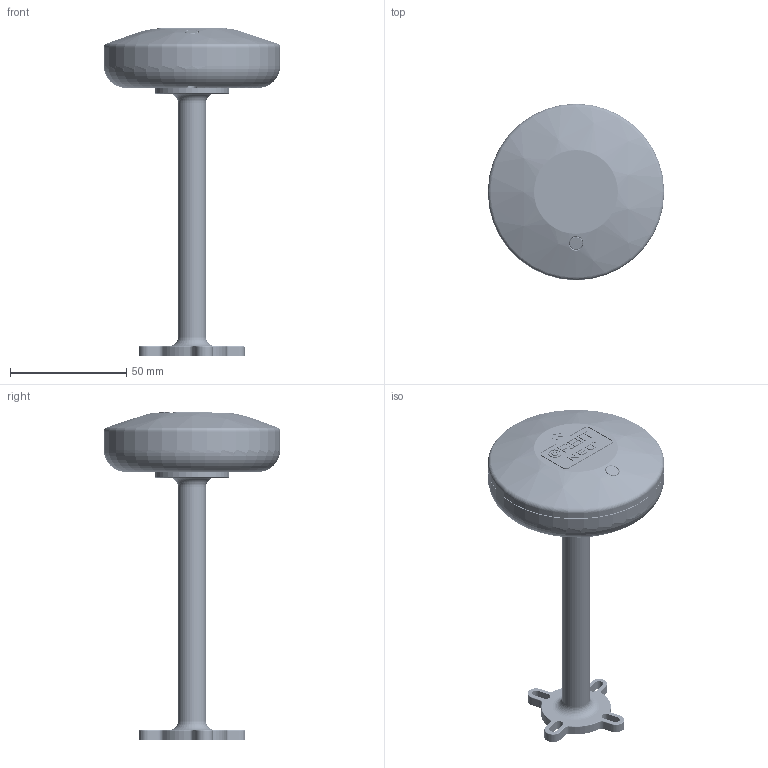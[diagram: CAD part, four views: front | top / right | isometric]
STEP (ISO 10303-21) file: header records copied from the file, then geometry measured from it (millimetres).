
FILE_DESCRIPTION(/* description */ ('STEP AP242 Edition 2','CAx-IF Rec.Pracs.---Representation and Presentation of Product Manufacturing Information (PMI)---4.0---2014-10-13','CAx-IF Rec.Pracs.---3D Tessellated Geometry---0.4---2014-09-14','2;1','CAx-IF Rec.Pracs.---User Defined Attributes---1.5---2016-08-15'),/* implementation_level */ '2;1');
FILE_NAME(/* name */ '69ce2e6da1ed34e5d0ca719a',/* time_stamp */ '2026-04-02T08:53:06Z',/* author */ (''),/* organization */ (''),/* preprocessor_version */ 'ST-DEVELOPER v20',/* originating_system */ 'ONSHAPE BY PTC INC, 1.212',/* authorisation */ ' ');
FILE_SCHEMA (('AP242_MANAGED_MODEL_BASED_3D_ENGINEERING_MIM_LF { 1 0 10303 442 3 1 4 }'));
Length unit declared in the file: metre
Products named in the file (303): Orbit-NEO-PLUS-Enclosure-IP Rated; Orbit-NEO-PLUS_2; M1.2x 0.25 x 4 Slotted Flat Head Screw_91430A154; M2 Thread Insert; Wire Grommet O Ring; Post-Orbit-NEO-PLUS-Enclosure; Bottom-Orbit-NEO-PLUS-Enclosure-IP Rated; Wire Grommet-Orbit-NEO-PLUS-Enclosure-R3; LED Cover-Orbit-NEO-PLUS-Enclosure-IP Rated; Large O Ring-Orbit-NEO-PLUS-Enclosure-IP Rated; M2 x 0.4 x 6 Screw Button Head Screw; Small O Ring-Orbit-NEO-PLUS-Enclosure-IP Rated; Retainer-Wire Grommet-Orbit-NEO-PLUS-Enclosure-R2; Top-Orbit-NEO-PLUS-Enclosure-IP Rated
Assembly tree (308 placements, depth 2):
  Orbit-NEO-PLUS-Enclosure-IP Rated
    Orbit-NEO-PLUS_2
    Orbit-NEO-PLUS_2
    Orbit-NEO-PLUS_2
    Orbit-NEO-PLUS_2
    Orbit-NEO-PLUS_2
    Orbit-NEO-PLUS_2
    Orbit-NEO-PLUS_2
    Orbit-NEO-PLUS_2
    Orbit-NEO-PLUS_2
    Orbit-NEO-PLUS_2
    Orbit-NEO-PLUS_2
    Orbit-NEO-PLUS_2
    Orbit-NEO-PLUS_2
    Orbit-NEO-PLUS_2
    Orbit-NEO-PLUS_2
    Orbit-NEO-PLUS_2
    Orbit-NEO-PLUS_2
    Orbit-NEO-PLUS_2
    Orbit-NEO-PLUS_2
    Orbit-NEO-PLUS_2
    M1.2x 0.25 x 4 Slotted Flat Head Screw_91430A154  x4
    Orbit-NEO-PLUS_2
    Orbit-NEO-PLUS_2
    Orbit-NEO-PLUS_2
    Orbit-NEO-PLUS_2
    Orbit-NEO-PLUS_2
    Orbit-NEO-PLUS_2
    Orbit-NEO-PLUS_2
    Orbit-NEO-PLUS_2
    Orbit-NEO-PLUS_2
    Orbit-NEO-PLUS_2
    Orbit-NEO-PLUS_2
    Orbit-NEO-PLUS_2
    Orbit-NEO-PLUS_2
    Orbit-NEO-PLUS_2
    Orbit-NEO-PLUS_2
    Orbit-NEO-PLUS_2
    Orbit-NEO-PLUS_2
    Orbit-NEO-PLUS_2
    Orbit-NEO-PLUS_2
    Orbit-NEO-PLUS_2
    Orbit-NEO-PLUS_2
    Orbit-NEO-PLUS_2
    Orbit-NEO-PLUS_2
    Orbit-NEO-PLUS_2
    Orbit-NEO-PLUS_2
    Orbit-NEO-PLUS_2
    Orbit-NEO-PLUS_2
    Orbit-NEO-PLUS_2
    Orbit-NEO-PLUS_2
    Orbit-NEO-PLUS_2
    Orbit-NEO-PLUS_2
    Orbit-NEO-PLUS_2
    Orbit-NEO-PLUS_2
    M2 Thread Insert  x4
    Orbit-NEO-PLUS_2
    Orbit-NEO-PLUS_2
    Orbit-NEO-PLUS_2
    Orbit-NEO-PLUS_2
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Bounding box: 75.8 x 75.8 x 140.48 mm (x, y, z)
Volume: 49906.8 mm3; surface area: 59557 mm2
Topology: 308 solids, 308 shells, 7479 faces, 19172 edges, 12557 vertices
Faces by surface type: plane 4671, cylinder 2048, torus 278, bspline 251, sphere 141, cone 90
Full cylindrical faces by diameter (mm): 0.11 x1, 0.15 x1, 0.156 x1, 0.2 x3, 0.227 x1, 0.3 x3, 0.375 x1, 0.648 x1, 0.8 x1, 0.801 x2, 0.95 x4, 1 x2, 1.146 x1, 1.2 x48, 1.4 x2, 1.5 x2, 1.6 x39, 2.12 x1, 2.4 x3, 2.5 x1, 2.9 x4, 2.914 x1, 3.459 x1, 3.5 x5, 3.8 x2, 4 x4, 4.2 x2, 4.3 x2, 5.6 x1, 5.9 x1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
Entity records: 223367 total; most frequent: CARTESIAN_POINT 50593, DIRECTION 34037, ORIENTED_EDGE 34004, EDGE_CURVE 17002, LINE 11953, VECTOR 11953, VERTEX_POINT 11190, AXIS2_PLACEMENT_3D 11042
